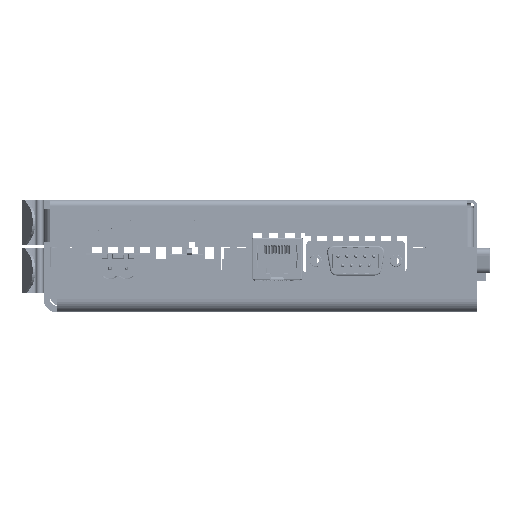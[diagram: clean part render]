
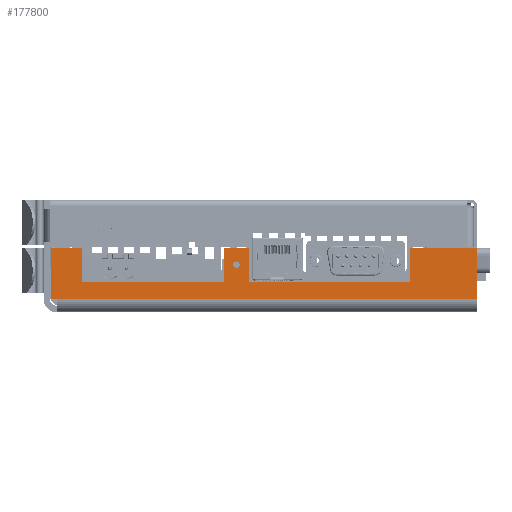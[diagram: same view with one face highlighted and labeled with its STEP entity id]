
A CAD part, front view. The second image highlights one B-rep face of the part: STEP entity #177800.
In plain terms, the highlighted planar face has unit normal (0, -1, 0).
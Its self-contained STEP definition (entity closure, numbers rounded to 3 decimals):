
#4467=FACE_BOUND('',#57083,.T.);
#12261=LINE('',#276938,#30533);
#12277=LINE('',#276983,#30549);
#12279=LINE('',#276986,#30551);
#12280=LINE('',#276989,#30552);
#12282=LINE('',#276993,#30554);
#12285=LINE('',#276998,#30557);
#12286=LINE('',#277001,#30558);
#12289=LINE('',#277007,#30561);
#12291=LINE('',#277010,#30563);
#12352=LINE('',#277151,#30624);
#12353=LINE('',#277154,#30625);
#12354=LINE('',#277156,#30626);
#12355=LINE('',#277157,#30627);
#30533=VECTOR('',#209179,10.);
#30549=VECTOR('',#209217,10.);
#30551=VECTOR('',#209221,10.);
#30552=VECTOR('',#209224,10.);
#30554=VECTOR('',#209228,10.);
#30557=VECTOR('',#209233,10.);
#30558=VECTOR('',#209236,10.);
#30561=VECTOR('',#209241,10.);
#30563=VECTOR('',#209245,10.);
#30624=VECTOR('',#209392,10.);
#30625=VECTOR('',#209395,10.);
#30626=VECTOR('',#209396,10.);
#30627=VECTOR('',#209397,10.);
#47272=FACE_OUTER_BOUND('',#57082,.T.);
#57082=EDGE_LOOP('',(#128700,#128701,#128702,#128703,#128704,#128705,#128706,
#128707,#128708,#128709,#128710,#128711,#128712));
#57083=EDGE_LOOP('',(#128713));
#64402=CIRCLE('',#186800,1.);
#74374=VERTEX_POINT('',#276936);
#74375=VERTEX_POINT('',#276937);
#74392=VERTEX_POINT('',#276980);
#74393=VERTEX_POINT('',#276982);
#74394=VERTEX_POINT('',#276988);
#74395=VERTEX_POINT('',#276992);
#74396=VERTEX_POINT('',#276996);
#74397=VERTEX_POINT('',#277000);
#74398=VERTEX_POINT('',#277004);
#74399=VERTEX_POINT('',#277006);
#74436=VERTEX_POINT('',#277149);
#74437=VERTEX_POINT('',#277153);
#74438=VERTEX_POINT('',#277155);
#74439=VERTEX_POINT('',#277158);
#93803=EDGE_CURVE('',#74374,#74375,#12261,.T.);
#93826=EDGE_CURVE('',#74392,#74393,#12277,.T.);
#93828=EDGE_CURVE('',#74374,#74393,#12279,.T.);
#93829=EDGE_CURVE('',#74394,#74375,#12280,.T.);
#93831=EDGE_CURVE('',#74395,#74394,#12282,.T.);
#93834=EDGE_CURVE('',#74395,#74396,#12285,.T.);
#93835=EDGE_CURVE('',#74397,#74396,#12286,.T.);
#93838=EDGE_CURVE('',#74399,#74398,#12289,.T.);
#93840=EDGE_CURVE('',#74398,#74397,#12291,.T.);
#93913=EDGE_CURVE('',#74399,#74436,#12352,.T.);
#93914=EDGE_CURVE('',#74392,#74437,#12353,.T.);
#93915=EDGE_CURVE('',#74437,#74438,#12354,.T.);
#93916=EDGE_CURVE('',#74438,#74436,#12355,.T.);
#93917=EDGE_CURVE('',#74439,#74439,#64402,.T.);
#128700=ORIENTED_EDGE('',*,*,#93914,.T.);
#128701=ORIENTED_EDGE('',*,*,#93915,.T.);
#128702=ORIENTED_EDGE('',*,*,#93916,.T.);
#128703=ORIENTED_EDGE('',*,*,#93913,.F.);
#128704=ORIENTED_EDGE('',*,*,#93838,.T.);
#128705=ORIENTED_EDGE('',*,*,#93840,.T.);
#128706=ORIENTED_EDGE('',*,*,#93835,.T.);
#128707=ORIENTED_EDGE('',*,*,#93834,.F.);
#128708=ORIENTED_EDGE('',*,*,#93831,.T.);
#128709=ORIENTED_EDGE('',*,*,#93829,.T.);
#128710=ORIENTED_EDGE('',*,*,#93803,.F.);
#128711=ORIENTED_EDGE('',*,*,#93828,.T.);
#128712=ORIENTED_EDGE('',*,*,#93826,.F.);
#128713=ORIENTED_EDGE('',*,*,#93917,.T.);
#161076=PLANE('',#186799);
#177800=ADVANCED_FACE('',(#47272,#4467),#161076,.T.);
#186799=AXIS2_PLACEMENT_3D('',#277152,#209393,#209394);
#186800=AXIS2_PLACEMENT_3D('',#277159,#209398,#209399);
#209179=DIRECTION('',(-1.,0.,0.));
#209217=DIRECTION('',(1.,0.,0.));
#209221=DIRECTION('',(0.,0.,1.));
#209224=DIRECTION('',(1.,0.,0.));
#209228=DIRECTION('',(0.,0.,-1.));
#209233=DIRECTION('',(1.,0.,0.));
#209236=DIRECTION('',(0.,0.,1.));
#209241=DIRECTION('',(0.,0.,-1.));
#209245=DIRECTION('',(-1.,0.,0.));
#209392=DIRECTION('',(1.,0.,0.));
#209393=DIRECTION('center_axis',(0.,-1.,0.));
#209394=DIRECTION('ref_axis',(0.,0.,
-1.));
#209395=DIRECTION('',(0.,0.,-1.));
#209396=DIRECTION('',(-1.,0.,0.));
#209397=DIRECTION('',(0.,0.,1.));
#209398=DIRECTION('center_axis',(0.,1.,0.));
#209399=DIRECTION('ref_axis',(1.,0.,0.));
#276936=CARTESIAN_POINT('',(135.,0.,4.));
#276937=CARTESIAN_POINT('',(4.,0.,4.));
#276938=CARTESIAN_POINT('',(4.,0.,4.));
#276980=CARTESIAN_POINT('',(114.,0.,20.));
#276982=CARTESIAN_POINT('',(135.,0.,20.));
#276983=CARTESIAN_POINT('',(4.,0.,20.));
#276986=CARTESIAN_POINT('',(135.,0.,20.));
#276988=CARTESIAN_POINT('',(2.2,0.,4.));
#276989=CARTESIAN_POINT('',(2.2,0.,4.));
#276992=CARTESIAN_POINT('',(2.2,0.,20.));
#276993=CARTESIAN_POINT('',(2.2,0.,20.));
#276996=CARTESIAN_POINT('',(12.,0.,20.));
#276998=CARTESIAN_POINT('',(4.,0.,20.));
#277000=CARTESIAN_POINT('',(12.,0.,9.5));
#277001=CARTESIAN_POINT('',(12.,0.,10.));
#277004=CARTESIAN_POINT('',(56.,0.,9.5));
#277006=CARTESIAN_POINT('',(56.,0.,20.));
#277007=CARTESIAN_POINT('',(56.,0.,4.75));
#277010=CARTESIAN_POINT('',(8.,0.,9.5));
#277149=CARTESIAN_POINT('',(64.,0.,20.));
#277151=CARTESIAN_POINT('',(4.,0.,20.));
#277152=CARTESIAN_POINT('Origin',(4.,0.,
0.));
#277153=CARTESIAN_POINT('',(114.,0.,9.5));
#277154=CARTESIAN_POINT('',(114.,0.,4.75));
#277155=CARTESIAN_POINT('',(64.,0.,9.5));
#277156=CARTESIAN_POINT('',(34.,0.,9.5));
#277157=CARTESIAN_POINT('',(64.,0.,10.));
#277158=CARTESIAN_POINT('',(59.,0.,14.8));
#277159=CARTESIAN_POINT('Origin',(60.,0.,
14.8));
